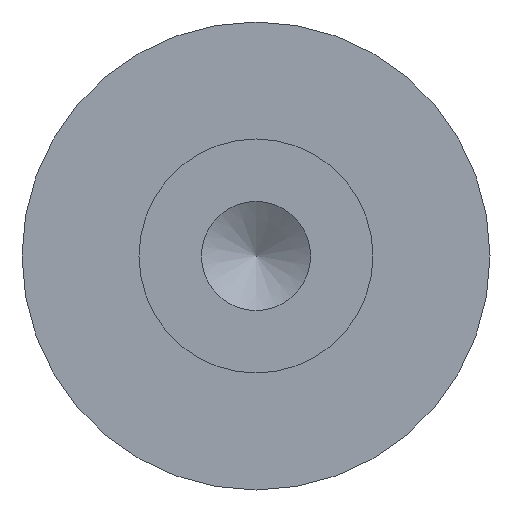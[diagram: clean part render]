
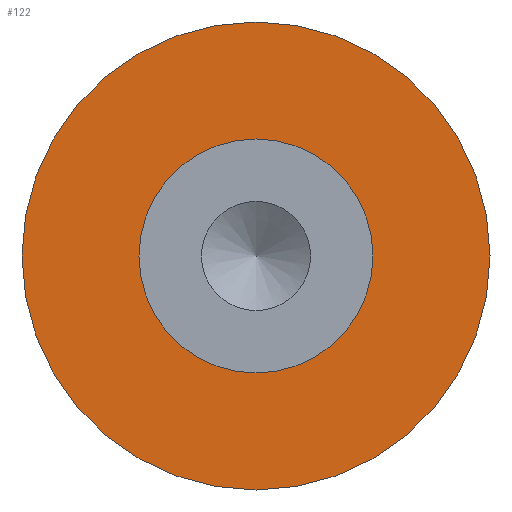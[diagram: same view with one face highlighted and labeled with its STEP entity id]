
A CAD part, front view. The second image highlights one B-rep face of the part: STEP entity #122.
In plain terms, the highlighted planar face has unit normal (0, -1, 0).
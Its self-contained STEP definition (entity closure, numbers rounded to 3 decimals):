
#15 = DIRECTION ( 'NONE',  ( 0., 1., 0. ) ) ;
#19 = EDGE_LOOP ( 'NONE', ( #70 ) ) ;
#21 = VERTEX_POINT ( 'NONE', #60 ) ;
#28 = EDGE_CURVE ( 'NONE', #21, #21, #88, .T. ) ;
#38 = DIRECTION ( 'NONE',  ( 0., 0., 1. ) ) ;
#40 = CARTESIAN_POINT ( 'NONE',  ( 0., 4.5, -4.5 ) ) ;
#42 = CARTESIAN_POINT ( 'NONE',  ( 0., 4.5, 0. ) ) ;
#58 = DIRECTION ( 'NONE',  ( 0., 1., 0. ) ) ;
#60 = CARTESIAN_POINT ( 'NONE',  ( 0., 4.5, 9. ) ) ;
#63 = ORIENTED_EDGE ( 'NONE', *, *, #72, .T. ) ;
#70 = ORIENTED_EDGE ( 'NONE', *, *, #28, .F. ) ;
#72 = EDGE_CURVE ( 'NONE', #94, #94, #165, .T. ) ;
#79 = CARTESIAN_POINT ( 'NONE',  ( 0., 4.5, 0. ) ) ;
#82 = AXIS2_PLACEMENT_3D ( 'NONE', #79, #15, #139 ) ;
#88 = CIRCLE ( 'NONE', #82, 9. ) ;
#94 = VERTEX_POINT ( 'NONE', #143 ) ;
#102 = FACE_OUTER_BOUND ( 'NONE', #19, .T. ) ;
#103 = PLANE ( 'NONE',  #135 ) ;
#114 = AXIS2_PLACEMENT_3D ( 'NONE', #42, #118, #38 ) ;
#117 = EDGE_LOOP ( 'NONE', ( #63 ) ) ;
#118 = DIRECTION ( 'NONE',  ( 0., 1., 0. ) ) ;
#122 = ADVANCED_FACE ( 'NONE', ( #102, #129 ), #103, .F. ) ;
#129 = FACE_BOUND ( 'NONE', #117, .T. ) ;
#135 = AXIS2_PLACEMENT_3D ( 'NONE', #40, #58, #142 ) ;
#139 = DIRECTION ( 'NONE',  ( 0., 0., 1. ) ) ;
#142 = DIRECTION ( 'NONE',  ( 0., 0., 1. ) ) ;
#143 = CARTESIAN_POINT ( 'NONE',  ( 0., 4.5, 4.5 ) ) ;
#165 = CIRCLE ( 'NONE', #114, 4.5 ) ;
